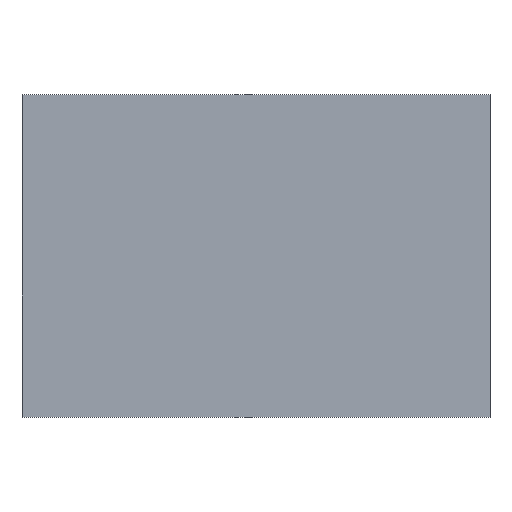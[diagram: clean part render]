
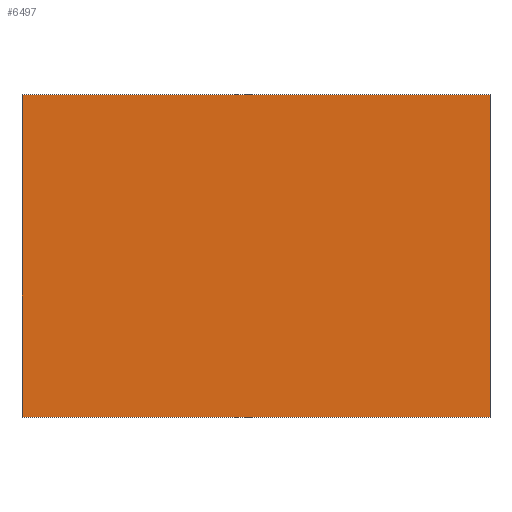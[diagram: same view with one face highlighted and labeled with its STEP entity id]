
A CAD part, top view. The second image highlights one B-rep face of the part: STEP entity #6497.
In plain terms, the highlighted planar face has unit normal (0, 0, 1).
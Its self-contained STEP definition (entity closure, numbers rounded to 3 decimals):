
#332 = PLANE('',#333);
#333 = AXIS2_PLACEMENT_3D('',#334,#335,#336);
#334 = CARTESIAN_POINT('',(0.,0.,0.));
#335 = DIRECTION('',(0.,1.,0.));
#336 = DIRECTION('',(1.,0.,0.));
#360 = PLANE('',#361);
#361 = AXIS2_PLACEMENT_3D('',#362,#363,#364);
#362 = CARTESIAN_POINT('',(0.,35.,0.));
#363 = DIRECTION('',(1.,0.,0.));
#364 = DIRECTION('',(0.,-1.,0.));
#388 = PLANE('',#389);
#389 = AXIS2_PLACEMENT_3D('',#390,#391,#392);
#390 = CARTESIAN_POINT('',(50.8,35.,0.));
#391 = DIRECTION('',(0.,-1.,0.));
#392 = DIRECTION('',(-1.,0.,0.));
#414 = PLANE('',#415);
#415 = AXIS2_PLACEMENT_3D('',#416,#417,#418);
#416 = CARTESIAN_POINT('',(50.8,0.,0.));
#417 = DIRECTION('',(-1.,0.,0.));
#418 = DIRECTION('',(0.,1.,0.));
#2622 = VERTEX_POINT('',#2623);
#2623 = CARTESIAN_POINT('',(0.,0.,6.64));
#2644 = EDGE_CURVE('',#2622,#2645,#2647,.T.);
#2645 = VERTEX_POINT('',#2646);
#2646 = CARTESIAN_POINT('',(50.8,0.,6.64));
#2647 = SURFACE_CURVE('',#2648,(#2652,#2659),.PCURVE_S1.);
#2648 = LINE('',#2649,#2650);
#2649 = CARTESIAN_POINT('',(0.,0.,6.64));
#2650 = VECTOR('',#2651,1.);
#2651 = DIRECTION('',(1.,0.,0.));
#2652 = PCURVE('',#332,#2653);
#2653 = DEFINITIONAL_REPRESENTATION('',(#2654),#2658);
#2654 = LINE('',#2655,#2656);
#2655 = CARTESIAN_POINT('',(0.,-6.64));
#2656 = VECTOR('',#2657,1.);
#2657 = DIRECTION('',(1.,0.));
#2658 = ( GEOMETRIC_REPRESENTATION_CONTEXT(2) 
PARAMETRIC_REPRESENTATION_CONTEXT() REPRESENTATION_CONTEXT('2D SPACE',''
  ) );
#2659 = PCURVE('',#2660,#2665);
#2660 = PLANE('',#2661);
#2661 = AXIS2_PLACEMENT_3D('',#2662,#2663,#2664);
#2662 = CARTESIAN_POINT('',(0.,0.,6.64));
#2663 = DIRECTION('',(0.,0.,-1.));
#2664 = DIRECTION('',(-1.,0.,0.));
#2665 = DEFINITIONAL_REPRESENTATION('',(#2666),#2670);
#2666 = LINE('',#2667,#2668);
#2667 = CARTESIAN_POINT('',(0.,0.));
#2668 = VECTOR('',#2669,1.);
#2669 = DIRECTION('',(-1.,0.));
#2670 = ( GEOMETRIC_REPRESENTATION_CONTEXT(2) 
PARAMETRIC_REPRESENTATION_CONTEXT() REPRESENTATION_CONTEXT('2D SPACE',''
  ) );
#2698 = VERTEX_POINT('',#2699);
#2699 = CARTESIAN_POINT('',(0.,35.,6.64));
#2720 = EDGE_CURVE('',#2698,#2622,#2721,.T.);
#2721 = SURFACE_CURVE('',#2722,(#2726,#2733),.PCURVE_S1.);
#2722 = LINE('',#2723,#2724);
#2723 = CARTESIAN_POINT('',(0.,35.,6.64));
#2724 = VECTOR('',#2725,1.);
#2725 = DIRECTION('',(0.,-1.,0.));
#2726 = PCURVE('',#360,#2727);
#2727 = DEFINITIONAL_REPRESENTATION('',(#2728),#2732);
#2728 = LINE('',#2729,#2730);
#2729 = CARTESIAN_POINT('',(0.,-6.64));
#2730 = VECTOR('',#2731,1.);
#2731 = DIRECTION('',(1.,0.));
#2732 = ( GEOMETRIC_REPRESENTATION_CONTEXT(2) 
PARAMETRIC_REPRESENTATION_CONTEXT() REPRESENTATION_CONTEXT('2D SPACE',''
  ) );
#2733 = PCURVE('',#2660,#2734);
#2734 = DEFINITIONAL_REPRESENTATION('',(#2735),#2739);
#2735 = LINE('',#2736,#2737);
#2736 = CARTESIAN_POINT('',(0.,35.));
#2737 = VECTOR('',#2738,1.);
#2738 = DIRECTION('',(0.,-1.));
#2739 = ( GEOMETRIC_REPRESENTATION_CONTEXT(2) 
PARAMETRIC_REPRESENTATION_CONTEXT() REPRESENTATION_CONTEXT('2D SPACE',''
  ) );
#2747 = EDGE_CURVE('',#2645,#2748,#2750,.T.);
#2748 = VERTEX_POINT('',#2749);
#2749 = CARTESIAN_POINT('',(50.8,35.,6.64));
#2750 = SURFACE_CURVE('',#2751,(#2755,#2762),.PCURVE_S1.);
#2751 = LINE('',#2752,#2753);
#2752 = CARTESIAN_POINT('',(50.8,0.,6.64));
#2753 = VECTOR('',#2754,1.);
#2754 = DIRECTION('',(0.,1.,0.));
#2755 = PCURVE('',#414,#2756);
#2756 = DEFINITIONAL_REPRESENTATION('',(#2757),#2761);
#2757 = LINE('',#2758,#2759);
#2758 = CARTESIAN_POINT('',(0.,-6.64));
#2759 = VECTOR('',#2760,1.);
#2760 = DIRECTION('',(1.,0.));
#2761 = ( GEOMETRIC_REPRESENTATION_CONTEXT(2) 
PARAMETRIC_REPRESENTATION_CONTEXT() REPRESENTATION_CONTEXT('2D SPACE',''
  ) );
#2762 = PCURVE('',#2660,#2763);
#2763 = DEFINITIONAL_REPRESENTATION('',(#2764),#2768);
#2764 = LINE('',#2765,#2766);
#2765 = CARTESIAN_POINT('',(-50.8,0.));
#2766 = VECTOR('',#2767,1.);
#2767 = DIRECTION('',(0.,1.));
#2768 = ( GEOMETRIC_REPRESENTATION_CONTEXT(2) 
PARAMETRIC_REPRESENTATION_CONTEXT() REPRESENTATION_CONTEXT('2D SPACE',''
  ) );
#2796 = EDGE_CURVE('',#2748,#2698,#2797,.T.);
#2797 = SURFACE_CURVE('',#2798,(#2802,#2809),.PCURVE_S1.);
#2798 = LINE('',#2799,#2800);
#2799 = CARTESIAN_POINT('',(50.8,35.,6.64));
#2800 = VECTOR('',#2801,1.);
#2801 = DIRECTION('',(-1.,0.,0.));
#2802 = PCURVE('',#388,#2803);
#2803 = DEFINITIONAL_REPRESENTATION('',(#2804),#2808);
#2804 = LINE('',#2805,#2806);
#2805 = CARTESIAN_POINT('',(0.,-6.64));
#2806 = VECTOR('',#2807,1.);
#2807 = DIRECTION('',(1.,0.));
#2808 = ( GEOMETRIC_REPRESENTATION_CONTEXT(2) 
PARAMETRIC_REPRESENTATION_CONTEXT() REPRESENTATION_CONTEXT('2D SPACE',''
  ) );
#2809 = PCURVE('',#2660,#2810);
#2810 = DEFINITIONAL_REPRESENTATION('',(#2811),#2815);
#2811 = LINE('',#2812,#2813);
#2812 = CARTESIAN_POINT('',(-50.8,35.));
#2813 = VECTOR('',#2814,1.);
#2814 = DIRECTION('',(1.,0.));
#2815 = ( GEOMETRIC_REPRESENTATION_CONTEXT(2) 
PARAMETRIC_REPRESENTATION_CONTEXT() REPRESENTATION_CONTEXT('2D SPACE',''
  ) );
#6497 = ADVANCED_FACE('',(#6498),#2660,.F.);
#6498 = FACE_BOUND('',#6499,.T.);
#6499 = EDGE_LOOP('',(#6500,#6501,#6502,#6503));
#6500 = ORIENTED_EDGE('',*,*,#2644,.T.);
#6501 = ORIENTED_EDGE('',*,*,#2747,.T.);
#6502 = ORIENTED_EDGE('',*,*,#2796,.T.);
#6503 = ORIENTED_EDGE('',*,*,#2720,.T.);
